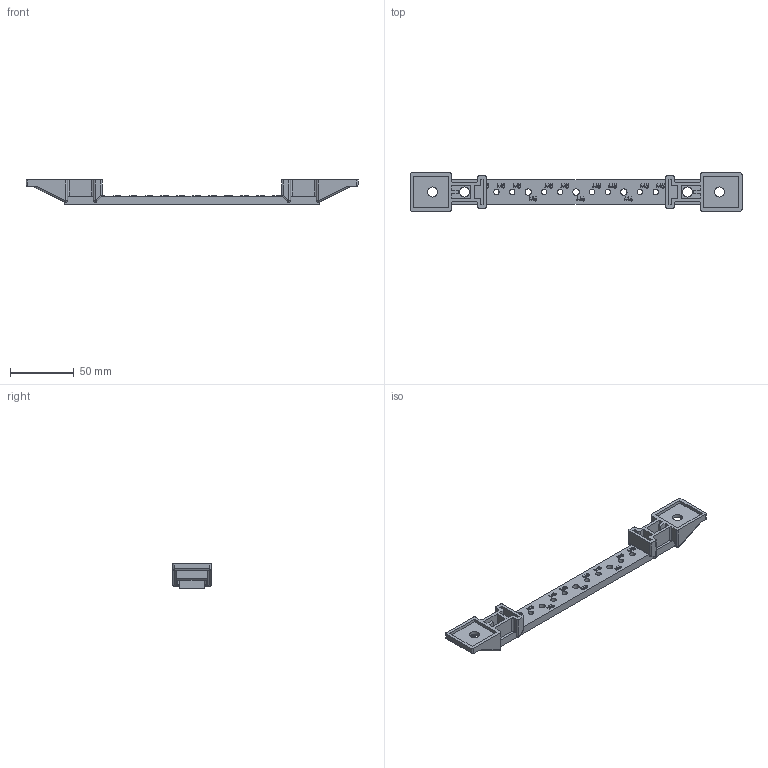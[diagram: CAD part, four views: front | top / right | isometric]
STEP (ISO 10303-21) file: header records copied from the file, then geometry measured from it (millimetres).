
FILE_DESCRIPTION (( 'STEP AP203' ), '1' );
FILE_NAME ('45979.step', '2013-04-03T09:49:10', ( '' ), ( '' ), 'SwSTEP 2.0', 'SolidWorks 2010', '' );
FILE_SCHEMA (( 'CONFIG_CONTROL_DESIGN' ));
Length unit declared in the file: inch
Products named in the file (3): 45979; 45292001; 45286001
Assembly tree (3 placements, depth 2):
  45979
    45292001
    45286001  x2
Bounding box: 260.4 x 30.02 x 19.05 mm (x, y, z)
Volume: 38737.5 mm3; surface area: 25263.2 mm2
Topology: 5 solids, 5 shells, 624 faces, 1679 edges, 1066 vertices
Faces by surface type: plane 361, cylinder 116, bspline 107, sphere 40
Entity records: 22461 total; most frequent: CARTESIAN_POINT 9733, ORIENTED_EDGE 2784, DIRECTION 2142, EDGE_CURVE 1392, VECTOR 1020, LINE 1020, VERTEX_POINT 912, EDGE_LOOP 582
